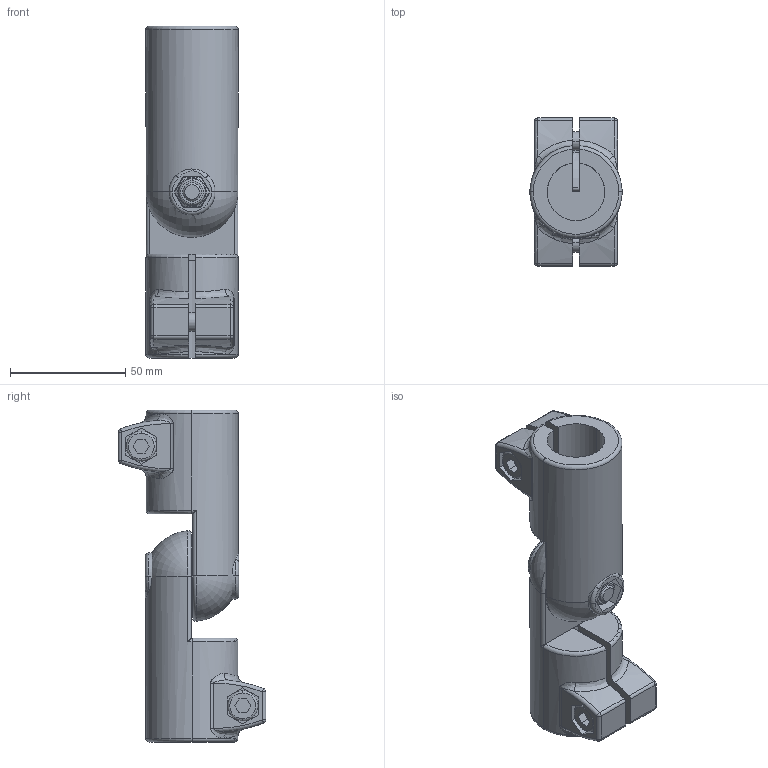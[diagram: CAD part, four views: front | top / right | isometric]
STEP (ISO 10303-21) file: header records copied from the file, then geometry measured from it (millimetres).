
FILE_DESCRIPTION (( 'STEP AP214' ), '1' );
FILE_NAME ('286-B25-B25-S-2-BL.step', '2021-12-02T12:15:10', ( '' ), ( '' ), 'SwSTEP 2.0', 'SolidWorks 2019', '' );
FILE_SCHEMA (( 'AUTOMOTIVE_DESIGN' ));
Length unit declared in the file: millimetre
Products named in the file (3): WB276_1^WB286_B25-MZ-2-BL; WB276^WB286_B25-IV-2-BL; 286-B25-B25-S-2-BL
Assembly tree (2 placements, depth 2):
  286-B25-B25-S-2-BL
    WB276^WB286_B25-IV-2-BL
    WB276_1^WB286_B25-MZ-2-BL
Bounding box: 40 x 64 x 144 mm (x, y, z)
Volume: 134356.3 mm3; surface area: 43479.7 mm2
Topology: 2 solids, 2 shells, 419 faces, 1016 edges, 622 vertices
Faces by surface type: plane 209, cylinder 108, torus 50, cone 24, bspline 20, sphere 8
Entity records: 15928 total; most frequent: CARTESIAN_POINT 5028, ORIENTED_EDGE 2016, DIRECTION 1968, EDGE_CURVE 1008, AXIS2_PLACEMENT_3D 764, VERTEX_POINT 622, EDGE_LOOP 454, LINE 440
